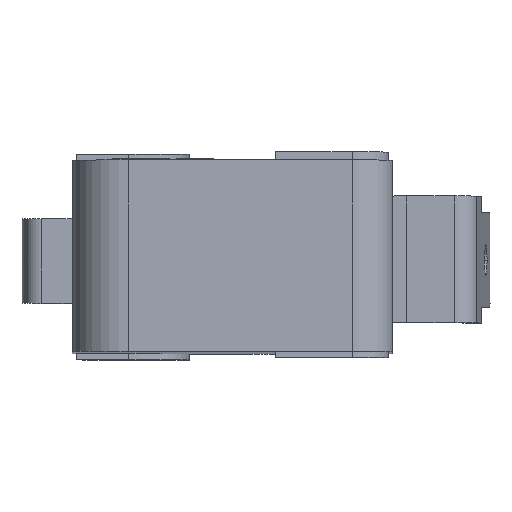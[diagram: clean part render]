
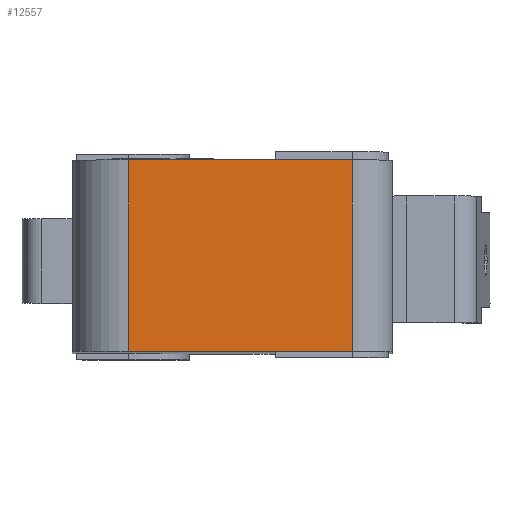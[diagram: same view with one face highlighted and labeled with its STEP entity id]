
A CAD part, left-side view. The second image highlights one B-rep face of the part: STEP entity #12557.
In plain terms, the highlighted planar face has unit normal (-1, 0, 0.005).
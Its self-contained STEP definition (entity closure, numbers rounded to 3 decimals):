
#200=DIRECTION('',(-0.005,0.,-1.));
#201=VECTOR('',#200,9.5);
#202=CARTESIAN_POINT('',(-27.812,8.176,4.634));
#203=LINE('',#202,#201);
#208=DIRECTION('',(0.,-1.,0.));
#209=VECTOR('',#208,11.1);
#210=CARTESIAN_POINT('',(-27.812,8.176,4.634));
#211=LINE('',#210,#209);
#220=DIRECTION('',(0.005,0.,1.));
#221=VECTOR('',#220,9.5);
#222=CARTESIAN_POINT('',(-27.861,-2.924,
-4.866));
#223=LINE('',#222,#221);
#301=DIRECTION('',(0.,-1.,0.));
#302=VECTOR('',#301,11.1);
#303=CARTESIAN_POINT('',(-27.861,8.176,-4.866));
#304=LINE('',#303,#302);
#9857=CARTESIAN_POINT('',(-27.861,8.175,
-4.866));
#9858=VERTEX_POINT('',#9857);
#9859=CARTESIAN_POINT('',(-27.861,-2.924,
-4.866));
#9860=VERTEX_POINT('',#9859);
#9935=CARTESIAN_POINT('',(-27.812,8.176,4.634));
#9936=VERTEX_POINT('',#9935);
#9937=CARTESIAN_POINT('',(-27.812,-2.924,
4.634));
#9938=VERTEX_POINT('',#9937);
#12543=CARTESIAN_POINT('',(-27.825,8.176,
1.934));
#12544=DIRECTION('',(-1.,0.,0.005));
#12545=DIRECTION('',(0.,-1.,0.));
#12546=AXIS2_PLACEMENT_3D('',#12543,#12544,#12545);
#12547=PLANE('',#12546);
#12549=ORIENTED_EDGE('',*,*,#12548,.F.);
#12551=ORIENTED_EDGE('',*,*,#12550,.F.);
#12552=ORIENTED_EDGE('',*,*,#12533,.F.);
#12554=ORIENTED_EDGE('',*,*,#12553,.T.);
#12555=EDGE_LOOP('',(#12549,#12551,#12552,#12554));
#12556=FACE_OUTER_BOUND('',#12555,.F.);
#12557=ADVANCED_FACE('',(#12556),#12547,.T.);
#12533=EDGE_CURVE('',#9936,#9858,#203,.T.);
#12548=EDGE_CURVE('',#9860,#9938,#223,.T.);
#12550=EDGE_CURVE('',#9858,#9860,#304,.T.);
#12553=EDGE_CURVE('',#9936,#9938,#211,.T.);
